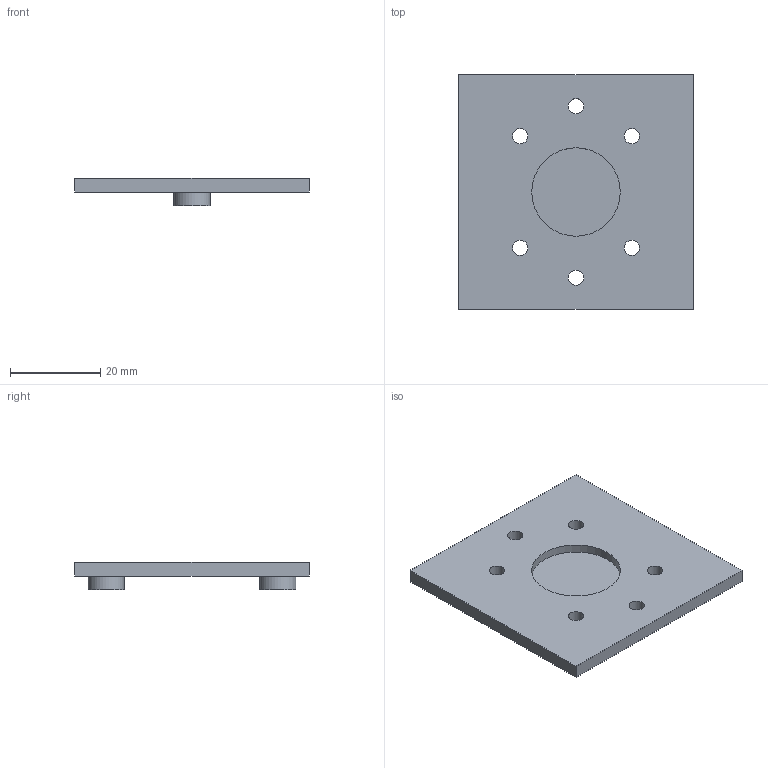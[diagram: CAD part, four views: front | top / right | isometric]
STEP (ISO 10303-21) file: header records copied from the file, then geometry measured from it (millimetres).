
FILE_DESCRIPTION(('Open CASCADE Model'),'2;1');
FILE_NAME('Open CASCADE Shape Model','2026-11-10T18:04:08',('Author'),( 'Open CASCADE'),'Open CASCADE STEP processor 7.9','Open CASCADE 7.9' ,'Unknown');
FILE_SCHEMA(('AUTOMOTIVE_DESIGN { 1 0 10303 214 1 1 1 1 }'));
Length unit declared in the file: millimetre
Products named in the file (1): Open CASCADE STEP translator 7.9 8
Bounding box: 52 x 52 x 6 mm (x, y, z)
Volume: 7622.4 mm3; surface area: 6447.2 mm2
Topology: 1 solids, 1 shells, 18 faces, 39 edges, 26 vertices
Faces by surface type: plane 9, cylinder 9
Full cylindrical faces by diameter (mm): 3.4 x6, 8 x2, 19.6 x1
Entity records: 1042 total; most frequent: DIRECTION 173, CARTESIAN_POINT 162, LINE 81, VECTOR 81, ORIENTED_EDGE 78, PCURVE 78, DEFINITIONAL_REPRESENTATION 78, EDGE_CURVE 39
